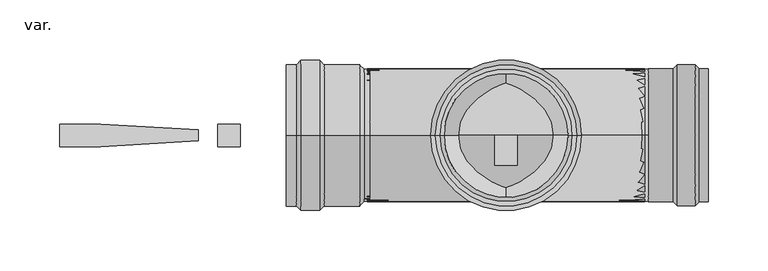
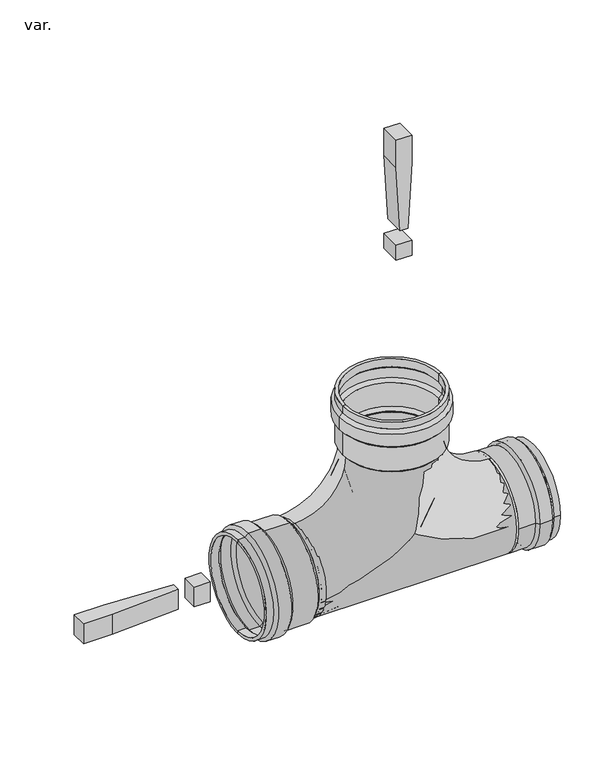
"""IFC4 building model written with IfcOpenShell, lengths in millimetres: pipe fitting geometry, AmancoWavin_ConexõesdeTubos_ColetoresTILdeligaçãoDN101.6XDN110 : var.."""

from ifc_helpers import new_model, si_unit, point, frame, origin, origin_with_axes, place, context, project, spatial, polyline, circle_curve, ellipse_curve, trimmed, outline, extrude, source, transform, mapped, element, save
from ifc_brep_helpers import plane_surface, cylinder_surface, revolved_surface, advanced_brep


def var_7f51d020(model_context):
    return source(origin(), model_context, "Body", "SolidModel", [
        extrude(outline(polyline([(-257.180514, -4.7088895), (-338.5192231, -9.4177791), (-372.5483077, -9.4177791), (-372.5483077, 9.4177791), (-338.5192231, 9.4177791), (-257.180514, 4.7088895), (-257.180514, -4.7088895)])), origin_with_axes(), (0.0, 0.0, 1.0), 25.0),
        extrude(outline(polyline([(-221.8638424, -9.4177791), (-240.6994006, -9.4177791), (-240.6994006, 9.4177791), (-221.8638424, 9.4177791), (-221.8638424, -9.4177791)])), origin_with_axes(), (0.0, 0.0, 1.0), 25.0),
        extrude(outline(polyline([(399.7737616, -4.7088895), (399.7737616, 4.7088895), (481.1124707, 9.4177791), (515.1415552, 9.4177791), (515.1415552, -9.4177791), (481.1124707, -9.4177791), (399.7737616, -4.7088895)])), frame((0.0, -25.0, 0.0), z_axis=(0.0, 1.0, 0.0), x_axis=(0.0, 0.0, 1.0)), (0.0, 0.0, 1.0), 25.0),
        extrude(outline(polyline([(9.4177791, -25.0), (-9.4177791, -25.0), (-9.4177791, 0.0), (9.4177791, 0.0), (9.4177791, -25.0)])), frame((0.0, 0.0, 364.45709), z_axis=(0.0, 0.0, 1.0), x_axis=(1.0, 0.0, 0.0)), (0.0, 0.0, 1.0), 18.8355582),
        advanced_brep(
        [(-173.6818444, 0.0, -55.3951325), (-173.6818444, 0.0, 55.3951325), (-183.6818444, 0.0, 55.3951325), (-183.6818444, 0.0, -55.3951325), (-110.326258, 0.0, -51.8595986), (-110.326258, 0.0, 51.8595986), (-120.1418444, 0.0, 51.8595986), (-120.1418444, 0.0, -51.8595986), (-123.6773783, 0.0, 55.3951325), (-123.6773783, 0.0, -55.3951325), (-153.3818444, 0.0, 55.3951325), (-153.3818444, 0.0, -55.3951325), (-157.2818444, 0.0, 59.2951325), (-157.2818444, 0.0, -59.2951325), (-169.7818444, 0.0, 59.2951325), (-169.7818444, 0.0, -59.2951325), (-183.6818444, 0.0, 58.9951325), (-183.6818444, 0.0, -58.9951325), (-175.1730132, 0.0, 58.9951325), (-175.1730132, 0.0, -58.9951325), (-171.2730132, 0.0, 62.8951325), (-171.2730132, 0.0, -62.8951325), (-155.7906756, 0.0, 62.8951325), (-155.7906756, 0.0, -62.8951325), (-151.8906756, 0.0, 58.9951325), (-151.8906756, 0.0, -58.9951325), (-122.1862095, 0.0, 58.9951325), (-122.1862095, 0.0, -58.9951325), (-118.6506756, 0.0, 55.4595986), (-118.6506756, 0.0, -55.4595986), (-110.326258, 0.0, -55.4595986), (-110.326258, 0.0, 55.4595986)],
        [
            (0, 1, circle_curve(frame((-173.6818444, 0.0, 0.0), z_axis=(1.0, 0.0, 0.0), x_axis=(0.0, 0.0, 1.0)), 55.3951325)),
            (1, 2),
            (2, 3, circle_curve(frame((-183.6818444, 0.0, 0.0), z_axis=(-1.0, 0.0, 0.0), x_axis=(0.0, 0.0, 1.0)), 55.3951325)),
            (3, 0),
            (1, 0, circle_curve(frame((-173.6818444, 0.0, 0.0), z_axis=(1.0, 0.0, 0.0), x_axis=(0.0, 0.0, 1.0)), 55.3951325)),
            (3, 2, circle_curve(frame((-183.6818444, 0.0, 0.0), z_axis=(-1.0, 0.0, 0.0), x_axis=(0.0, 0.0, 1.0)), 55.3951325)),
            (4, 5, circle_curve(frame((-110.326258, 0.0, 0.0), z_axis=(1.0, 0.0, 0.0), x_axis=(0.0, 0.0, 1.0)), 51.8595986)),
            (5, 6),
            (6, 7, circle_curve(frame((-120.1418444, 0.0, 0.0), z_axis=(-1.0, 0.0, 0.0), x_axis=(0.0, 0.0, 1.0)), 51.8595986)),
            (7, 4),
            (5, 4, circle_curve(frame((-110.326258, 0.0, 0.0), z_axis=(1.0, 0.0, 0.0), x_axis=(0.0, 0.0, 1.0)), 51.8595986)),
            (7, 6, circle_curve(frame((-120.1418444, 0.0, 0.0), z_axis=(-1.0, 0.0, 0.0), x_axis=(0.0, 0.0, 1.0)), 51.8595986)),
            (6, 8),
            (8, 9, circle_curve(frame((-123.6773783, 0.0, 0.0), z_axis=(-1.0, 0.0, 0.0), x_axis=(0.0, 0.0, 1.0)), 55.3951325)),
            (9, 7),
            (9, 8, circle_curve(frame((-123.6773783, 0.0, 0.0), z_axis=(-1.0, 0.0, 0.0), x_axis=(0.0, 0.0, 1.0)), 55.3951325)),
            (8, 10),
            (10, 11, circle_curve(frame((-153.3818444, 0.0, 0.0), z_axis=(-1.0, 0.0, 0.0), x_axis=(0.0, 0.0, 1.0)), 55.3951325)),
            (11, 9),
            (11, 10, circle_curve(frame((-153.3818444, 0.0, 0.0), z_axis=(-1.0, 0.0, 0.0), x_axis=(0.0, 0.0, 1.0)), 55.3951325)),
            (10, 12),
            (12, 13, circle_curve(frame((-157.2818444, 0.0, 0.0), z_axis=(-1.0, 0.0, 0.0), x_axis=(0.0, 0.0, 1.0)), 59.2951325)),
            (13, 11),
            (13, 12, circle_curve(frame((-157.2818444, 0.0, 0.0), z_axis=(-1.0, 0.0, 0.0), x_axis=(0.0, 0.0, 1.0)), 59.2951325)),
            (12, 14),
            (14, 15, circle_curve(frame((-169.7818444, 0.0, 0.0), z_axis=(-1.0, 0.0, 0.0), x_axis=(0.0, 0.0, 1.0)), 59.2951325)),
            (15, 13),
            (15, 14, circle_curve(frame((-169.7818444, 0.0, 0.0), z_axis=(-1.0, 0.0, 0.0), x_axis=(0.0, 0.0, 1.0)), 59.2951325)),
            (14, 1),
            (0, 15),
            (2, 16),
            (16, 17, circle_curve(frame((-183.6818444, 0.0, 0.0), z_axis=(-1.0, 0.0, 0.0), x_axis=(0.0, 0.0, 1.0)), 58.9951325)),
            (17, 3),
            (17, 16, circle_curve(frame((-183.6818444, 0.0, 0.0), z_axis=(-1.0, 0.0, 0.0), x_axis=(0.0, 0.0, 1.0)), 58.9951325)),
            (16, 18),
            (18, 19, circle_curve(frame((-175.1730132, 0.0, 0.0), z_axis=(-1.0, 0.0, 0.0), x_axis=(0.0, 0.0, 1.0)), 58.9951325)),
            (19, 17),
            (19, 18, circle_curve(frame((-175.1730132, 0.0, 0.0), z_axis=(-1.0, 0.0, 0.0), x_axis=(0.0, 0.0, 1.0)), 58.9951325)),
            (18, 20),
            (20, 21, circle_curve(frame((-171.2730132, 0.0, 0.0), z_axis=(-1.0, 0.0, 0.0), x_axis=(0.0, 0.0, 1.0)), 62.8951325)),
            (21, 19),
            (21, 20, circle_curve(frame((-171.2730132, 0.0, 0.0), z_axis=(-1.0, 0.0, 0.0), x_axis=(0.0, 0.0, 1.0)), 62.8951325)),
            (20, 22),
            (22, 23, circle_curve(frame((-155.7906756, 0.0, 0.0), z_axis=(-1.0, 0.0, 0.0), x_axis=(0.0, 0.0, 1.0)), 62.8951325)),
            (23, 21),
            (23, 22, circle_curve(frame((-155.7906756, 0.0, 0.0), z_axis=(-1.0, 0.0, 0.0), x_axis=(0.0, 0.0, 1.0)), 62.8951325)),
            (22, 24),
            (24, 25, circle_curve(frame((-151.8906756, 0.0, 0.0), z_axis=(-1.0, 0.0, 0.0), x_axis=(0.0, 0.0, 1.0)), 58.9951325)),
            (25, 23),
            (25, 24, circle_curve(frame((-151.8906756, 0.0, 0.0), z_axis=(-1.0, 0.0, 0.0), x_axis=(0.0, 0.0, 1.0)), 58.9951325)),
            (24, 26),
            (26, 27, circle_curve(frame((-122.1862095, 0.0, 0.0), z_axis=(-1.0, 0.0, 0.0), x_axis=(0.0, 0.0, 1.0)), 58.9951325)),
            (27, 25),
            (27, 26, circle_curve(frame((-122.1862095, 0.0, 0.0), z_axis=(-1.0, 0.0, 0.0), x_axis=(0.0, 0.0, 1.0)), 58.9951325)),
            (26, 28),
            (28, 29, circle_curve(frame((-118.6506756, 0.0, 0.0), z_axis=(-1.0, 0.0, 0.0), x_axis=(0.0, 0.0, 1.0)), 55.4595986)),
            (29, 27),
            (29, 28, circle_curve(frame((-118.6506756, 0.0, 0.0), z_axis=(-1.0, 0.0, 0.0), x_axis=(0.0, 0.0, 1.0)), 55.4595986)),
            (30, 31, circle_curve(frame((-110.326258, 0.0, 0.0), z_axis=(1.0, 0.0, 0.0), x_axis=(0.0, 0.0, 1.0)), 55.4595986)),
            (31, 5),
            (4, 30),
            (31, 30, circle_curve(frame((-110.326258, 0.0, 0.0), z_axis=(1.0, 0.0, 0.0), x_axis=(0.0, 0.0, 1.0)), 55.4595986)),
            (28, 31),
            (30, 29),
        ],
        [
            revolved_surface(polyline([(-183.68184440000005, 0.0, 55.3951325), (-173.68184440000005, 0.0, 55.3951325)]), (-1559.8194868, 0.0, 0.0), (-1.0, 0.0, 0.0)),
            revolved_surface(polyline([(-120.14184440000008, 0.0, 51.8595986), (-110.32625800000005, 0.0, 51.8595986)]), (-1559.8194868, 0.0, 0.0), (-1.0, 0.0, 0.0)),
            revolved_surface(polyline([(-123.6773783, 0.0, 55.3951325), (-120.1418444, 0.0, 51.8595986)]), (-1559.8194868, 0.0, 0.0), (-1.0, 0.0, 0.0)),
            revolved_surface(polyline([(-153.3818444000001, 0.0, 55.3951325), (-123.6773783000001, 0.0, 55.3951325)]), (-1559.8194868, 0.0, 0.0), (-1.0, 0.0, 0.0)),
            revolved_surface(polyline([(-157.2818444, 0.0, 59.2951325), (-153.3818444, 0.0, 55.3951325)]), (-1559.8194868, 0.0, 0.0), (-1.0, 0.0, 0.0)),
            revolved_surface(polyline([(-169.78184439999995, 0.0, 59.2951325), (-157.28184439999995, 0.0, 59.2951325)]), (-1559.8194868, 0.0, 0.0), (-1.0, 0.0, 0.0)),
            revolved_surface(polyline([(-173.6818444, 0.0, 55.3951325), (-169.7818444, 0.0, 59.2951325)]), (-1559.8194868, 0.0, 0.0), (-1.0, 0.0, 0.0)),
            plane_surface(frame((-183.6818444, 0.0, 0.0), z_axis=(-1.0, 0.0, 0.0), x_axis=(0.0, 0.0, 1.0))),
            cylinder_surface(frame((-1559.8194868, 0.0, 0.0), z_axis=(-1.0, 0.0, 0.0), x_axis=(0.0, 0.0, 1.0)), 58.9951325),
            revolved_surface(polyline([(-171.2730132, 0.0, 62.8951325), (-175.1730132, 0.0, 58.9951325)]), (-1559.8194868, 0.0, 0.0), (-1.0, 0.0, 0.0)),
            cylinder_surface(frame((-1559.8194868, 0.0, 0.0), z_axis=(-1.0, 0.0, 0.0), x_axis=(0.0, 0.0, 1.0)), 62.8951325),
            revolved_surface(polyline([(-151.8906756, 0.0, 58.9951325), (-155.7906756, 0.0, 62.8951325)]), (-1559.8194868, 0.0, 0.0), (-1.0, 0.0, 0.0)),
            revolved_surface(polyline([(-118.6506756, 0.0, 55.4595986), (-122.1862095, 0.0, 58.9951325)]), (-1559.8194868, 0.0, 0.0), (-1.0, 0.0, 0.0)),
            plane_surface(frame((-110.326258, 0.0, 0.0), z_axis=(1.0, 0.0, 0.0), x_axis=(0.0, 0.0, 1.0))),
            cylinder_surface(frame((-1559.8194868, 0.0, 0.0), z_axis=(-1.0, 0.0, 0.0), x_axis=(0.0, 0.0, 1.0)), 55.4595986),
        ],
        [
            (0, [[1, 2, 3, 4]]),
            (0, [[5, -4, 6, -2]]),
            (1, [[7, 8, 9, 10]]),
            (1, [[11, -10, 12, -8]]),
            (2, [[-9, 13, 14, 15]]),
            (2, [[-12, -15, 16, -13]]),
            (3, [[-14, 17, 18, 19]]),
            (3, [[-16, -19, 20, -17]]),
            (4, [[-18, 21, 22, 23]]),
            (4, [[-20, -23, 24, -21]]),
            (5, [[-22, 25, 26, 27]]),
            (5, [[-24, -27, 28, -25]]),
            (6, [[-26, 29, -1, 30]]),
            (6, [[-28, -30, -5, -29]]),
            (7, [[-3, 31, 32, 33]]),
            (7, [[-6, -33, 34, -31]]),
            (8, [[-32, 35, 36, 37]]),
            (8, [[-34, -37, 38, -35]]),
            (9, [[-36, 39, 40, 41]]),
            (9, [[-38, -41, 42, -39]]),
            (10, [[-40, 43, 44, 45]]),
            (10, [[-42, -45, 46, -43]]),
            (11, [[-44, 47, 48, 49]]),
            (11, [[-46, -49, 50, -47]]),
            (8, [[-48, 51, 52, 53]]),
            (8, [[-50, -53, 54, -51]]),
            (12, [[-52, 55, 56, 57]]),
            (12, [[-54, -57, 58, -55]]),
            (13, [[59, 60, -7, 61]]),
            (13, [[62, -61, -11, -60]]),
            (14, [[-56, 63, -59, 64]]),
            (14, [[-58, -64, -62, -63]]),
        ],
    ),
        advanced_brep(
        [(-118.6181556, 0.0, -55.46), (-118.6181556, 0.0, 55.46), (-118.6181556, 0.0, -51.86), (-118.6181556, 0.0, 51.86), (55.4584003, 0.0, 118.6165559), (-55.4615997, 0.0, 118.6165559), (51.8584003, 0.0, 118.6165559), (-51.8615997, 0.0, 118.6165559)],
        [
            (0, 1, circle_curve(frame((-118.6181556, 0.0, 0.0), z_axis=(-1.0, 0.0, 0.0), x_axis=(0.0, 0.0, 1.0)), 55.46)),
            (1, 0, circle_curve(frame((-118.6181556, 0.0, 0.0), z_axis=(-1.0, 0.0, 0.0), x_axis=(0.0, 0.0, 1.0)), 55.46)),
            (2, 3, circle_curve(frame((-118.6181556, 0.0, 0.0), z_axis=(1.0, 0.0, 0.0), x_axis=(0.0, 0.0, 1.0)), 51.86)),
            (3, 2, circle_curve(frame((-118.6181556, 0.0, 0.0), z_axis=(1.0, 0.0, 0.0), x_axis=(0.0, 0.0, 1.0)), 51.86)),
            (4, 5, circle_curve(frame((-0.0015997, 0.0, 118.6165559), z_axis=(0.0, 0.0, 1.0), x_axis=(-1.0, 0.0, 0.0)), 55.46)),
            (5, 4, circle_curve(frame((-0.0015997, 0.0, 118.6165559), z_axis=(0.0, 0.0, 1.0), x_axis=(-1.0, 0.0, 0.0)), 55.46)),
            (6, 7, circle_curve(frame((-0.0015997, 0.0, 118.6165559), z_axis=(0.0, 0.0, -1.0), x_axis=(-1.0, 0.0, 0.0)), 51.86)),
            (7, 6, circle_curve(frame((-0.0015997, 0.0, 118.6165559), z_axis=(0.0, 0.0, -1.0), x_axis=(-1.0, 0.0, 0.0)), 51.86)),
            (4, 0, circle_curve(frame((-118.6181556, 0.0, 118.6165559), z_axis=(0.0, 1.0, 0.0), x_axis=(0.0, 0.0, -1.0)), 174.0765559)),
            (1, 5, circle_curve(frame((-118.6181556, 0.0, 118.6165559), z_axis=(0.0, -1.0, 0.0), x_axis=(0.0, 0.0, -1.0)), 63.1565559)),
            (6, 2, circle_curve(frame((-118.6181556, 0.0, 118.6165559), z_axis=(0.0, 1.0, 0.0), x_axis=(0.0, 0.0, -1.0)), 170.4765559)),
            (3, 7, circle_curve(frame((-118.6181556, 0.0, 118.6165559), z_axis=(0.0, -1.0, 0.0), x_axis=(0.0, 0.0, -1.0)), 66.7565559)),
        ],
        [
            plane_surface(frame((-118.6181556, 0.0, 0.0), z_axis=(-1.0, 0.0, 0.0), x_axis=(0.0, -1.0, 0.0))),
            plane_surface(frame((-0.0015997, 0.0, 118.6165559), z_axis=(0.0, 0.0, 1.0), x_axis=(0.0, -1.0, 0.0))),
            revolved_surface(trimmed(ellipse_curve(frame((-118.6181556, 0.0, 0.0), z_axis=(-1.0, 0.0, 0.0), x_axis=(0.0, 0.0, 1.0)), 55.46, 55.46), [point((-118.6181556, 0.0, 55.46))], [point((-118.6181556, 0.0, -55.46))], True, "CARTESIAN"), (-118.6181556, 0.0, 118.6165559), (0.0, -1.0, 0.0)),
            revolved_surface(trimmed(ellipse_curve(frame((-118.6181556, 0.0, 0.0), z_axis=(-1.0, 0.0, 0.0), x_axis=(0.0, 0.0, 1.0)), 55.46, 55.46), [point((-118.6181556, 0.0, -55.46))], [point((-118.6181556, 0.0, 55.46))], True, "CARTESIAN"), (-118.6181556, 0.0, 118.6165559), (0.0, -1.0, 0.0)),
            revolved_surface(trimmed(ellipse_curve(frame((-118.6181556, 0.0, 0.0), z_axis=(1.0, 0.0, 0.0), x_axis=(0.0, 0.0, 1.0)), 51.86, 51.86), [point((-118.6181556, 0.0, 51.86))], [point((-118.6181556, 0.0, -51.86))], True, "CARTESIAN"), (-118.6181556, 0.0, 118.6165559), (0.0, -1.0, 0.0)),
            revolved_surface(trimmed(ellipse_curve(frame((-118.6181556, 0.0, 0.0), z_axis=(1.0, 0.0, 0.0), x_axis=(0.0, 0.0, 1.0)), 51.86, 51.86), [point((-118.6181556, 0.0, -51.86))], [point((-118.6181556, 0.0, 51.86))], True, "CARTESIAN"), (-118.6181556, 0.0, 118.6165559), (0.0, -1.0, 0.0)),
        ],
        [
            (0, [[1, 2], [3, 4]]),
            (1, [[5, 6], [7, 8]]),
            (2, [[9, -2, 10, -5]]),
            (3, [[-10, -1, -9, -6]]),
            (4, [[11, -4, 12, -7]]),
            (5, [[-12, -3, -11, -8]]),
        ],
    ),
        advanced_brep(
        [(-115.8667072, 0.0, -55.46), (-115.8667072, 0.0, 55.46), (-115.8667072, 0.0, -51.86), (-115.8667072, 0.0, 51.86), (115.8667072, 0.0, -55.46), (115.8667072, 0.0, 55.46), (115.8667072, 0.0, -51.86), (115.8667072, 0.0, 51.86)],
        [
            (0, 1, circle_curve(frame((-115.8667072, 0.0, 0.0), z_axis=(-1.0, 0.0, 0.0), x_axis=(0.0, 0.0, 1.0)), 55.46)),
            (1, 0, circle_curve(frame((-115.8667072, 0.0, 0.0), z_axis=(-1.0, 0.0, 0.0), x_axis=(0.0, 0.0, 1.0)), 55.46)),
            (2, 3, circle_curve(frame((-115.8667072, 0.0, 0.0), z_axis=(1.0, 0.0, 0.0), x_axis=(0.0, 0.0, 1.0)), 51.86)),
            (3, 2, circle_curve(frame((-115.8667072, 0.0, 0.0), z_axis=(1.0, 0.0, 0.0), x_axis=(0.0, 0.0, 1.0)), 51.86)),
            (4, 5, circle_curve(frame((115.8667072, 0.0, 0.0), z_axis=(1.0, 0.0, 0.0), x_axis=(0.0, 0.0, 1.0)), 55.46)),
            (5, 4, circle_curve(frame((115.8667072, 0.0, 0.0), z_axis=(1.0, 0.0, 0.0), x_axis=(0.0, 0.0, 1.0)), 55.46)),
            (6, 7, circle_curve(frame((115.8667072, 0.0, 0.0), z_axis=(-1.0, 0.0, 0.0), x_axis=(0.0, 0.0, 1.0)), 51.86)),
            (7, 6, circle_curve(frame((115.8667072, 0.0, 0.0), z_axis=(-1.0, 0.0, 0.0), x_axis=(0.0, 0.0, 1.0)), 51.86)),
            (0, 4),
            (5, 1),
            (2, 6),
            (7, 3),
        ],
        [
            plane_surface(frame((-115.8667072, 0.0, 0.0), z_axis=(-1.0, 0.0, 0.0), x_axis=(0.0, -1.0, 0.0))),
            plane_surface(frame((115.8667072, 0.0, 0.0), z_axis=(1.0, 0.0, 0.0), x_axis=(0.0, -1.0, 0.0))),
            cylinder_surface(frame((-115.8667072, 0.0, 0.0), z_axis=(-1.0, 0.0, 0.0), x_axis=(0.0, 0.0, 1.0)), 55.46),
            revolved_surface(polyline([(115.8667072, 0.0, 51.86), (-115.8667072, 0.0, 51.86)]), (-115.8667072, 0.0, 0.0), (1.0, 0.0, 0.0)),
        ],
        [
            (0, [[1, 2], [3, 4]]),
            (1, [[5, 6], [7, 8]]),
            (2, [[-1, 9, -6, 10]]),
            (2, [[-2, -10, -5, -9]]),
            (3, [[-3, 11, -8, 12]]),
            (3, [[-4, -12, -7, -11]]),
        ],
    ),
        advanced_brep(
        [(55.3951325, 0.0, 183.6477247), (-55.3951325, 0.0, 183.6477247), (-55.3951325, 0.0, 173.6477247), (55.3951325, 0.0, 173.6477247), (51.8595986, 0.0, 120.1077247), (-51.8595986, 0.0, 120.1077247), (-51.8595986, 0.0, 118.6165559), (51.8595986, 0.0, 118.6165559), (55.3951325, 0.0, 123.6432587), (-55.3951325, 0.0, 123.6432587), (55.3951325, 0.0, 153.3477247), (-55.3951325, 0.0, 153.3477247), (59.2951325, 0.0, 157.2477247), (-59.2951325, 0.0, 157.2477247), (59.2951325, 0.0, 169.7477247), (-59.2951325, 0.0, 169.7477247), (58.9951325, 0.0, 183.6477247), (-58.9951325, 0.0, 183.6477247), (58.9951325, 0.0, 175.1388936), (-58.9951325, 0.0, 175.1388936), (62.8951325, 0.0, 171.2388936), (-62.8951325, 0.0, 171.2388936), (62.8951325, 0.0, 155.7565559), (-62.8951325, 0.0, 155.7565559), (58.9951325, 0.0, 151.8565559), (-58.9951325, 0.0, 151.8565559), (58.9951325, 0.0, 122.1520898), (-58.9951325, 0.0, 122.1520898), (55.4595986, 0.0, 118.6165559), (-55.4595986, 0.0, 118.6165559)],
        [
            (0, 1, circle_curve(frame((0.0, 0.0, 183.6477247), z_axis=(0.0, 0.0, 1.0), x_axis=(-1.0, 0.0, 0.0)), 55.3951325)),
            (1, 2),
            (2, 3, circle_curve(frame((0.0, 0.0, 173.6477247), z_axis=(0.0, 0.0, -1.0), x_axis=(-1.0, 0.0, 0.0)), 55.3951325)),
            (3, 0),
            (1, 0, circle_curve(frame((0.0, 0.0, 183.6477247), z_axis=(0.0, 0.0, 1.0), x_axis=(-1.0, 0.0, 0.0)), 55.3951325)),
            (3, 2, circle_curve(frame((0.0, 0.0, 173.6477247), z_axis=(0.0, 0.0, -1.0), x_axis=(-1.0, 0.0, 0.0)), 55.3951325)),
            (4, 5, circle_curve(frame((0.0, 0.0, 120.1077247), z_axis=(0.0, 0.0, 1.0), x_axis=(-1.0, 0.0, 0.0)), 51.8595986)),
            (5, 6),
            (6, 7, circle_curve(frame((0.0, 0.0, 118.6165559), z_axis=(0.0, 0.0, -1.0), x_axis=(-1.0, 0.0, 0.0)), 51.8595986)),
            (7, 4),
            (5, 4, circle_curve(frame((0.0, 0.0, 120.1077247), z_axis=(0.0, 0.0, 1.0), x_axis=(-1.0, 0.0, 0.0)), 51.8595986)),
            (7, 6, circle_curve(frame((0.0, 0.0, 118.6165559), z_axis=(0.0, 0.0, -1.0), x_axis=(-1.0, 0.0, 0.0)), 51.8595986)),
            (4, 8),
            (8, 9, circle_curve(frame((0.0, 0.0, 123.6432587), z_axis=(0.0, 0.0, 1.0), x_axis=(-1.0, 0.0, 0.0)), 55.3951325)),
            (9, 5),
            (9, 8, circle_curve(frame((0.0, 0.0, 123.6432587), z_axis=(0.0, 0.0, 1.0), x_axis=(-1.0, 0.0, 0.0)), 55.3951325)),
            (8, 10),
            (10, 11, circle_curve(frame((0.0, 0.0, 153.3477247), z_axis=(0.0, 0.0, 1.0), x_axis=(-1.0, 0.0, 0.0)), 55.3951325)),
            (11, 9),
            (11, 10, circle_curve(frame((0.0, 0.0, 153.3477247), z_axis=(0.0, 0.0, 1.0), x_axis=(-1.0, 0.0, 0.0)), 55.3951325)),
            (10, 12),
            (12, 13, circle_curve(frame((0.0, 0.0, 157.2477247), z_axis=(0.0, 0.0, 1.0), x_axis=(-1.0, 0.0, 0.0)), 59.2951325)),
            (13, 11),
            (13, 12, circle_curve(frame((0.0, 0.0, 157.2477247), z_axis=(0.0, 0.0, 1.0), x_axis=(-1.0, 0.0, 0.0)), 59.2951325)),
            (12, 14),
            (14, 15, circle_curve(frame((0.0, 0.0, 169.7477247), z_axis=(0.0, 0.0, 1.0), x_axis=(-1.0, 0.0, 0.0)), 59.2951325)),
            (15, 13),
            (15, 14, circle_curve(frame((0.0, 0.0, 169.7477247), z_axis=(0.0, 0.0, 1.0), x_axis=(-1.0, 0.0, 0.0)), 59.2951325)),
            (2, 15),
            (14, 3),
            (0, 16),
            (16, 17, circle_curve(frame((0.0, 0.0, 183.6477247), z_axis=(0.0, 0.0, 1.0), x_axis=(-1.0, 0.0, 0.0)), 58.9951325)),
            (17, 1),
            (17, 16, circle_curve(frame((0.0, 0.0, 183.6477247), z_axis=(0.0, 0.0, 1.0), x_axis=(-1.0, 0.0, 0.0)), 58.9951325)),
            (16, 18),
            (18, 19, circle_curve(frame((0.0, 0.0, 175.1388936), z_axis=(0.0, 0.0, 1.0), x_axis=(-1.0, 0.0, 0.0)), 58.9951325)),
            (19, 17),
            (19, 18, circle_curve(frame((0.0, 0.0, 175.1388936), z_axis=(0.0, 0.0, 1.0), x_axis=(-1.0, 0.0, 0.0)), 58.9951325)),
            (18, 20),
            (20, 21, circle_curve(frame((0.0, 0.0, 171.2388936), z_axis=(0.0, 0.0, 1.0), x_axis=(-1.0, 0.0, 0.0)), 62.8951325)),
            (21, 19),
            (21, 20, circle_curve(frame((0.0, 0.0, 171.2388936), z_axis=(0.0, 0.0, 1.0), x_axis=(-1.0, 0.0, 0.0)), 62.8951325)),
            (20, 22),
            (22, 23, circle_curve(frame((0.0, 0.0, 155.7565559), z_axis=(0.0, 0.0, 1.0), x_axis=(-1.0, 0.0, 0.0)), 62.8951325)),
            (23, 21),
            (23, 22, circle_curve(frame((0.0, 0.0, 155.7565559), z_axis=(0.0, 0.0, 1.0), x_axis=(-1.0, 0.0, 0.0)), 62.8951325)),
            (22, 24),
            (24, 25, circle_curve(frame((0.0, 0.0, 151.8565559), z_axis=(0.0, 0.0, 1.0), x_axis=(-1.0, 0.0, 0.0)), 58.9951325)),
            (25, 23),
            (25, 24, circle_curve(frame((0.0, 0.0, 151.8565559), z_axis=(0.0, 0.0, 1.0), x_axis=(-1.0, 0.0, 0.0)), 58.9951325)),
            (24, 26),
            (26, 27, circle_curve(frame((0.0, 0.0, 122.1520898), z_axis=(0.0, 0.0, 1.0), x_axis=(-1.0, 0.0, 0.0)), 58.9951325)),
            (27, 25),
            (27, 26, circle_curve(frame((0.0, 0.0, 122.1520898), z_axis=(0.0, 0.0, 1.0), x_axis=(-1.0, 0.0, 0.0)), 58.9951325)),
            (26, 28),
            (28, 29, circle_curve(frame((0.0, 0.0, 118.6165559), z_axis=(0.0, 0.0, 1.0), x_axis=(-1.0, 0.0, 0.0)), 55.4595986)),
            (29, 27),
            (29, 28, circle_curve(frame((0.0, 0.0, 118.6165559), z_axis=(0.0, 0.0, 1.0), x_axis=(-1.0, 0.0, 0.0)), 55.4595986)),
            (6, 29),
            (28, 7),
        ],
        [
            revolved_surface(polyline([(-55.3951325, 0.0, 173.6477246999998), (-55.3951325, 0.0, 183.6477246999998)]), (0.0, 0.0, 2288.6344522), (0.0, 0.0, -1.0)),
            revolved_surface(polyline([(-51.8595986, 0.0, 118.6165559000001), (-51.8595986, 0.0, 120.10772469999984)]), (0.0, 0.0, 2288.6344522), (0.0, 0.0, -1.0)),
            revolved_surface(polyline([(-51.8595986, 0.0, 120.1077247), (-55.3951325, 0.0, 123.6432587)]), (0.0, 0.0, 2288.6344522), (0.0, 0.0, -1.0)),
            revolved_surface(polyline([(-55.3951325, 0.0, 123.64325869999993), (-55.3951325, 0.0, 153.34772470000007)]), (0.0, 0.0, 2288.6344522), (0.0, 0.0, -1.0)),
            revolved_surface(polyline([(-55.3951325, 0.0, 153.3477247), (-59.2951325, 0.0, 157.2477247)]), (0.0, 0.0, 2288.6344522), (0.0, 0.0, -1.0)),
            revolved_surface(polyline([(-59.2951325, 0.0, 157.24772470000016), (-59.2951325, 0.0, 169.74772470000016)]), (0.0, 0.0, 2288.6344522), (0.0, 0.0, -1.0)),
            revolved_surface(polyline([(-59.2951325, 0.0, 169.7477247), (-55.3951325, 0.0, 173.6477247)]), (0.0, 0.0, 2288.6344522), (0.0, 0.0, -1.0)),
            plane_surface(frame((0.0, 0.0, 183.6477247), z_axis=(0.0, 0.0, 1.0), x_axis=(-1.0, 0.0, 0.0))),
            cylinder_surface(frame((0.0, 0.0, 2288.6344522), z_axis=(0.0, 0.0, -1.0), x_axis=(-1.0, 0.0, 0.0)), 58.9951325),
            revolved_surface(polyline([(-58.9951325, 0.0, 175.1388936), (-62.8951325, 0.0, 171.2388936)]), (0.0, 0.0, 2288.6344522), (0.0, 0.0, -1.0)),
            cylinder_surface(frame((0.0, 0.0, 2288.6344522), z_axis=(0.0, 0.0, -1.0), x_axis=(-1.0, 0.0, 0.0)), 62.8951325),
            revolved_surface(polyline([(-62.8951325, 0.0, 155.7565559), (-58.9951325, 0.0, 151.8565559)]), (0.0, 0.0, 2288.6344522), (0.0, 0.0, -1.0)),
            revolved_surface(polyline([(-58.9951325, 0.0, 122.1520898), (-55.4595986, 0.0, 118.6165559)]), (0.0, 0.0, 2288.6344522), (0.0, 0.0, -1.0)),
            plane_surface(frame((0.0, 0.0, 118.6165559), z_axis=(0.0, 0.0, -1.0), x_axis=(-1.0, 0.0, 0.0))),
        ],
        [
            (0, [[1, 2, 3, 4]]),
            (0, [[-2, 5, -4, 6]]),
            (1, [[7, 8, 9, 10]]),
            (1, [[-8, 11, -10, 12]]),
            (2, [[-7, 13, 14, 15]]),
            (2, [[-11, -15, 16, -13]]),
            (3, [[-14, 17, 18, 19]]),
            (3, [[-16, -19, 20, -17]]),
            (4, [[-18, 21, 22, 23]]),
            (4, [[-20, -23, 24, -21]]),
            (5, [[-22, 25, 26, 27]]),
            (5, [[-24, -27, 28, -25]]),
            (6, [[-3, 29, -26, 30]]),
            (6, [[-6, -30, -28, -29]]),
            (7, [[-1, 31, 32, 33]]),
            (7, [[-5, -33, 34, -31]]),
            (8, [[-32, 35, 36, 37]]),
            (8, [[-34, -37, 38, -35]]),
            (9, [[-36, 39, 40, 41]]),
            (9, [[-38, -41, 42, -39]]),
            (10, [[-40, 43, 44, 45]]),
            (10, [[-42, -45, 46, -43]]),
            (11, [[-44, 47, 48, 49]]),
            (11, [[-46, -49, 50, -47]]),
            (8, [[-48, 51, 52, 53]]),
            (8, [[-50, -53, 54, -51]]),
            (12, [[-52, 55, 56, 57]]),
            (12, [[-54, -57, 58, -55]]),
            (13, [[-9, 59, -56, 60]]),
            (13, [[-12, -60, -58, -59]]),
        ],
    ),
        advanced_brep(
        [(118.6181556, 0.0, 55.46), (118.6181556, 0.0, -55.46), (118.6181556, 0.0, 51.86), (118.6181556, 0.0, -51.86), (55.4615997, 0.0, 118.6165559), (-55.4584003, 0.0, 118.6165559), (51.8615997, 0.0, 118.6165559), (-51.8584003, 0.0, 118.6165559)],
        [
            (0, 1, circle_curve(frame((118.6181556, 0.0, 0.0), z_axis=(1.0, 0.0, 0.0), x_axis=(0.0, 0.0, -1.0)), 55.46)),
            (1, 0, circle_curve(frame((118.6181556, 0.0, 0.0), z_axis=(1.0, 0.0, 0.0), x_axis=(0.0, 0.0, -1.0)), 55.46)),
            (2, 3, circle_curve(frame((118.6181556, 0.0, 0.0), z_axis=(-1.0, 0.0, 0.0), x_axis=(0.0, 0.0, -1.0)), 51.86)),
            (3, 2, circle_curve(frame((118.6181556, 0.0, 0.0), z_axis=(-1.0, 0.0, 0.0), x_axis=(0.0, 0.0, -1.0)), 51.86)),
            (4, 5, circle_curve(frame((0.0015997, 0.0, 118.6165559), z_axis=(0.0, 0.0, 1.0), x_axis=(-1.0, 0.0, 0.0)), 55.46)),
            (5, 4, circle_curve(frame((0.0015997, 0.0, 118.6165559), z_axis=(0.0, 0.0, 1.0), x_axis=(-1.0, 0.0, 0.0)), 55.46)),
            (6, 7, circle_curve(frame((0.0015997, 0.0, 118.6165559), z_axis=(0.0, 0.0, -1.0), x_axis=(-1.0, 0.0, 0.0)), 51.86)),
            (7, 6, circle_curve(frame((0.0015997, 0.0, 118.6165559), z_axis=(0.0, 0.0, -1.0), x_axis=(-1.0, 0.0, 0.0)), 51.86)),
            (5, 1, circle_curve(frame((118.6181556, 0.0, 118.6165559), z_axis=(0.0, -1.0, 0.0), x_axis=(0.0, 0.0, -1.0)), 174.0765559)),
            (0, 4, circle_curve(frame((118.6181556, 0.0, 118.6165559), z_axis=(0.0, 1.0, 0.0), x_axis=(0.0, 0.0, -1.0)), 63.1565559)),
            (7, 3, circle_curve(frame((118.6181556, 0.0, 118.6165559), z_axis=(0.0, -1.0, 0.0), x_axis=(0.0, 0.0, -1.0)), 170.4765559)),
            (2, 6, circle_curve(frame((118.6181556, 0.0, 118.6165559), z_axis=(0.0, 1.0, 0.0), x_axis=(0.0, 0.0, -1.0)), 66.7565559)),
        ],
        [
            plane_surface(frame((118.6181556, 0.0, 0.0), z_axis=(1.0, 0.0, 0.0), x_axis=(0.0, -1.0, 0.0))),
            plane_surface(frame((0.0015997, 0.0, 118.6165559), z_axis=(0.0, 0.0, 1.0), x_axis=(0.0, -1.0, 0.0))),
            revolved_surface(trimmed(ellipse_curve(frame((118.6181556, 0.0, 0.0), z_axis=(1.0, 0.0, 0.0), x_axis=(0.0, 0.0, -1.0)), 55.46, 55.46), [point((118.6181556, 0.0, 55.46))], [point((118.6181556, 0.0, -55.46))], True, "CARTESIAN"), (118.6181556, 0.0, 118.6165559), (0.0, 1.0, 0.0)),
            revolved_surface(trimmed(ellipse_curve(frame((118.6181556, 0.0, 0.0), z_axis=(1.0, 0.0, 0.0), x_axis=(0.0, 0.0, -1.0)), 55.46, 55.46), [point((118.6181556, 0.0, -55.46))], [point((118.6181556, 0.0, 55.46))], True, "CARTESIAN"), (118.6181556, 0.0, 118.6165559), (0.0, 1.0, 0.0)),
            revolved_surface(trimmed(ellipse_curve(frame((118.6181556, 0.0, 0.0), z_axis=(-1.0, 0.0, 0.0), x_axis=(0.0, 0.0, -1.0)), 51.86, 51.86), [point((118.6181556, 0.0, 51.86))], [point((118.6181556, 0.0, -51.86))], True, "CARTESIAN"), (118.6181556, 0.0, 118.6165559), (0.0, 1.0, 0.0)),
            revolved_surface(trimmed(ellipse_curve(frame((118.6181556, 0.0, 0.0), z_axis=(-1.0, 0.0, 0.0), x_axis=(0.0, 0.0, -1.0)), 51.86, 51.86), [point((118.6181556, 0.0, -51.86))], [point((118.6181556, 0.0, 51.86))], True, "CARTESIAN"), (118.6181556, 0.0, 118.6165559), (0.0, 1.0, 0.0)),
        ],
        [
            (0, [[1, 2], [3, 4]]),
            (1, [[5, 6], [7, 8]]),
            (2, [[9, -1, 10, -6]]),
            (3, [[-10, -2, -9, -5]]),
            (4, [[11, -3, 12, -8]]),
            (5, [[-12, -4, -11, -7]]),
        ],
    ),
        advanced_brep(
        [(140.9169868, -51.86, 0.0), (140.9169868, 51.86, 0.0), (118.6181556, 51.86, 0.0), (118.6181556, -51.86, 0.0), (144.3169868, -55.26, 0.0), (144.3169868, 55.26, 0.0), (156.2181556, -55.26, 0.0), (156.2181556, 55.26, 0.0), (159.6181556, -51.86, 0.0), (159.6181556, 51.86, 0.0), (168.6181556, -51.86, 0.0), (168.6181556, 51.86, 0.0), (168.6181556, -55.46, 0.0), (168.6181556, 55.46, 0.0), (161.1093244, -55.46, 0.0), (161.1093244, 55.46, 0.0), (157.7093244, -58.86, 0.0), (157.7093244, 58.86, 0.0), (142.825818, -58.86, 0.0), (142.825818, 58.86, 0.0), (139.425818, -55.46, 0.0), (139.425818, 55.46, 0.0), (118.6181556, -55.46, 0.0), (118.6181556, 55.46, 0.0)],
        [
            (0, 1, circle_curve(frame((140.9169868, 0.0, 0.0), z_axis=(1.0, 0.0, 0.0), x_axis=(0.0, 1.0, 0.0)), 51.86)),
            (1, 2),
            (2, 3, circle_curve(frame((118.6181556, 0.0, 0.0), z_axis=(-1.0, 0.0, 0.0), x_axis=(0.0, 1.0, 0.0)), 51.86)),
            (3, 0),
            (1, 0, circle_curve(frame((140.9169868, 0.0, 0.0), z_axis=(1.0, 0.0, 0.0), x_axis=(0.0, 1.0, 0.0)), 51.86)),
            (3, 2, circle_curve(frame((118.6181556, 0.0, 0.0), z_axis=(-1.0, 0.0, 0.0), x_axis=(0.0, 1.0, 0.0)), 51.86)),
            (4, 5, circle_curve(frame((144.3169868, 0.0, 0.0), z_axis=(1.0, 0.0, 0.0), x_axis=(0.0, 1.0, 0.0)), 55.26)),
            (5, 1),
            (0, 4),
            (5, 4, circle_curve(frame((144.3169868, 0.0, 0.0), z_axis=(1.0, 0.0, 0.0), x_axis=(0.0, 1.0, 0.0)), 55.26)),
            (6, 7, circle_curve(frame((156.2181556, 0.0, 0.0), z_axis=(1.0, 0.0, 0.0), x_axis=(0.0, 1.0, 0.0)), 55.26)),
            (7, 5),
            (4, 6),
            (7, 6, circle_curve(frame((156.2181556, 0.0, 0.0), z_axis=(1.0, 0.0, 0.0), x_axis=(0.0, 1.0, 0.0)), 55.26)),
            (8, 9, circle_curve(frame((159.6181556, 0.0, 0.0), z_axis=(1.0, 0.0, 0.0), x_axis=(0.0, 1.0, 0.0)), 51.86)),
            (9, 7),
            (6, 8),
            (9, 8, circle_curve(frame((159.6181556, 0.0, 0.0), z_axis=(1.0, 0.0, 0.0), x_axis=(0.0, 1.0, 0.0)), 51.86)),
            (10, 11, circle_curve(frame((168.6181556, 0.0, 0.0), z_axis=(1.0, 0.0, 0.0), x_axis=(0.0, 1.0, 0.0)), 51.86)),
            (11, 9),
            (8, 10),
            (11, 10, circle_curve(frame((168.6181556, 0.0, 0.0), z_axis=(1.0, 0.0, 0.0), x_axis=(0.0, 1.0, 0.0)), 51.86)),
            (12, 13, circle_curve(frame((168.6181556, 0.0, 0.0), z_axis=(1.0, 0.0, 0.0), x_axis=(0.0, 1.0, 0.0)), 55.46)),
            (13, 11),
            (10, 12),
            (13, 12, circle_curve(frame((168.6181556, 0.0, 0.0), z_axis=(1.0, 0.0, 0.0), x_axis=(0.0, 1.0, 0.0)), 55.46)),
            (14, 15, circle_curve(frame((161.1093244, 0.0, 0.0), z_axis=(1.0, 0.0, 0.0), x_axis=(0.0, 1.0, 0.0)), 55.46)),
            (15, 13),
            (12, 14),
            (15, 14, circle_curve(frame((161.1093244, 0.0, 0.0), z_axis=(1.0, 0.0, 0.0), x_axis=(0.0, 1.0, 0.0)), 55.46)),
            (16, 17, circle_curve(frame((157.7093244, 0.0, 0.0), z_axis=(1.0, 0.0, 0.0), x_axis=(0.0, 1.0, 0.0)), 58.86)),
            (17, 15),
            (14, 16),
            (17, 16, circle_curve(frame((157.7093244, 0.0, 0.0), z_axis=(1.0, 0.0, 0.0), x_axis=(0.0, 1.0, 0.0)), 58.86)),
            (18, 19, circle_curve(frame((142.825818, 0.0, 0.0), z_axis=(1.0, 0.0, 0.0), x_axis=(0.0, 1.0, 0.0)), 58.86)),
            (19, 17),
            (16, 18),
            (19, 18, circle_curve(frame((142.825818, 0.0, 0.0), z_axis=(1.0, 0.0, 0.0), x_axis=(0.0, 1.0, 0.0)), 58.86)),
            (20, 21, circle_curve(frame((139.425818, 0.0, 0.0), z_axis=(1.0, 0.0, 0.0), x_axis=(0.0, 1.0, 0.0)), 55.46)),
            (21, 19),
            (18, 20),
            (21, 20, circle_curve(frame((139.425818, 0.0, 0.0), z_axis=(1.0, 0.0, 0.0), x_axis=(0.0, 1.0, 0.0)), 55.46)),
            (22, 23, circle_curve(frame((118.6181556, 0.0, 0.0), z_axis=(1.0, 0.0, 0.0), x_axis=(0.0, 1.0, 0.0)), 55.46)),
            (23, 21),
            (20, 22),
            (23, 22, circle_curve(frame((118.6181556, 0.0, 0.0), z_axis=(1.0, 0.0, 0.0), x_axis=(0.0, 1.0, 0.0)), 55.46)),
            (2, 23),
            (22, 3),
        ],
        [
            revolved_surface(polyline([(118.61815559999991, 51.86, 0.0), (140.9169867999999, 51.86, 0.0)]), (1946.9881556, 0.0, 0.0), (-1.0, 0.0, 0.0)),
            revolved_surface(polyline([(140.9169868, 51.86, 0.0), (144.3169868, 55.26, 0.0)]), (1946.9881556, 0.0, 0.0), (-1.0, 0.0, 0.0)),
            revolved_surface(polyline([(144.3169868, 55.26, 0.0), (156.21815560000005, 55.26, 0.0)]), (1946.9881556, 0.0, 0.0), (-1.0, 0.0, 0.0)),
            revolved_surface(polyline([(156.2181556, 55.26, 0.0), (159.6181556, 51.86, 0.0)]), (1946.9881556, 0.0, 0.0), (-1.0, 0.0, 0.0)),
            revolved_surface(polyline([(159.6181555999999, 51.86, 0.0), (168.6181555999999, 51.86, 0.0)]), (1946.9881556, 0.0, 0.0), (-1.0, 0.0, 0.0)),
            plane_surface(frame((168.6181556, 0.0, 0.0), z_axis=(1.0, 0.0, 0.0), x_axis=(0.0, 1.0, 0.0))),
            cylinder_surface(frame((1946.9881556, 0.0, 0.0), z_axis=(-1.0, 0.0, 0.0), x_axis=(0.0, 1.0, 0.0)), 55.46),
            revolved_surface(polyline([(161.1093244, 55.46, 0.0), (157.7093244, 58.86, 0.0)]), (1946.9881556, 0.0, 0.0), (-1.0, 0.0, 0.0)),
            cylinder_surface(frame((1946.9881556, 0.0, 0.0), z_axis=(-1.0, 0.0, 0.0), x_axis=(0.0, 1.0, 0.0)), 58.86),
            revolved_surface(polyline([(142.825818, 58.86, 0.0), (139.425818, 55.46, 0.0)]), (1946.9881556, 0.0, 0.0), (-1.0, 0.0, 0.0)),
            plane_surface(frame((118.6181556, 0.0, 0.0), z_axis=(-1.0, 0.0, 0.0), x_axis=(0.0, 1.0, 0.0))),
        ],
        [
            (0, [[1, 2, 3, 4]]),
            (0, [[5, -4, 6, -2]]),
            (1, [[7, 8, -1, 9]]),
            (1, [[10, -9, -5, -8]]),
            (2, [[11, 12, -7, 13]]),
            (2, [[14, -13, -10, -12]]),
            (3, [[15, 16, -11, 17]]),
            (3, [[18, -17, -14, -16]]),
            (4, [[19, 20, -15, 21]]),
            (4, [[22, -21, -18, -20]]),
            (5, [[23, 24, -19, 25]]),
            (5, [[26, -25, -22, -24]]),
            (6, [[27, 28, -23, 29]]),
            (6, [[30, -29, -26, -28]]),
            (7, [[31, 32, -27, 33]]),
            (7, [[34, -33, -30, -32]]),
            (8, [[35, 36, -31, 37]]),
            (8, [[38, -37, -34, -36]]),
            (9, [[39, 40, -35, 41]]),
            (9, [[42, -41, -38, -40]]),
            (6, [[43, 44, -39, 45]]),
            (6, [[46, -45, -42, -44]]),
            (10, [[-3, 47, -43, 48]]),
            (10, [[-6, -48, -46, -47]]),
        ],
    ),
    ])


if __name__ == "__main__":
    model = new_model("IFC4")
    model_context = context("Model", 3, world=origin())
    ifc_project = project(units=[si_unit("LENGTHUNIT", "METRE", prefix="MILLI")], contexts=[model_context])
    site = spatial("IfcSite", under=ifc_project)
    building = spatial("IfcBuilding", under=site)
    placement = place(None, origin())
    var_shape = var_7f51d020(model_context)
    element("IfcPipeFitting", 1, ObjectType="AmancoWavin_ConexõesdeTubos_ColetoresTILdeligaçãoDN101.6XDN110 : var.", at=placement, inside=building, context=model_context, shape_type="MappedRepresentation", body=[
        mapped(var_shape, transform((0.0, 0.0, 0.0), x_axis=(1.0, 0.0, 0.0), y_axis=(0.0, 1.0, 0.0), z_axis=(0.0, 0.0, 1.0))),
    ])
    save(model, "model.ifc")
